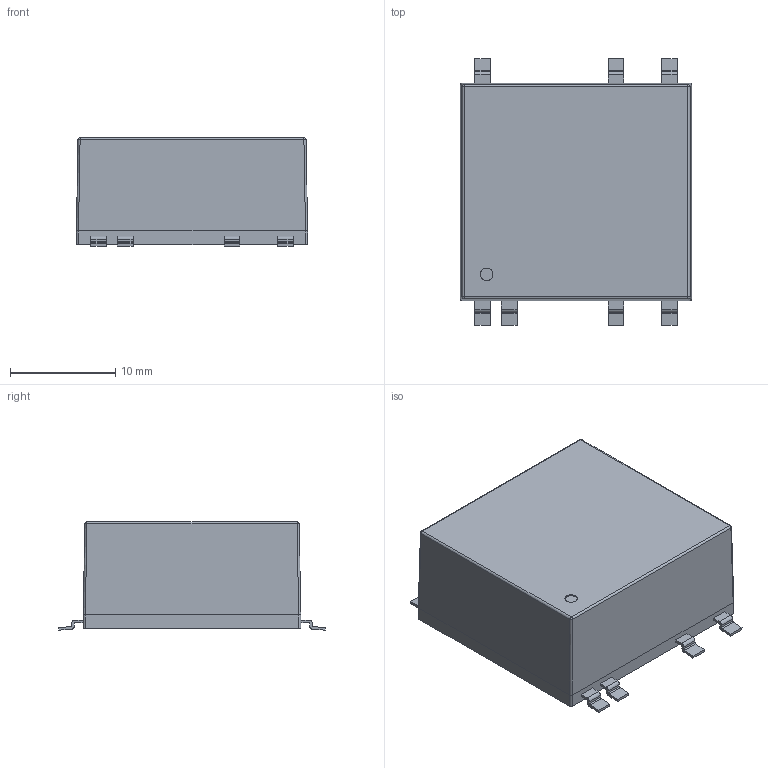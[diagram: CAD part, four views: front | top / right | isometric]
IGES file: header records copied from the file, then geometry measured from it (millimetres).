
Start section: SolidWorks IGES file using analytic representation for surfaces
Global section: file name: C:\Users\ksmith.XPNA\Desktop\ISX\ISX06.IGS; native system: SolidWorks 2017; preprocessor: SolidWorks 2017; author: ksmith; date: 171018.082520; units: inch
Bounding box: 22 x 25.4 x 10.31 mm (x, y, z)
Surface area: 3455.9 mm2 (no closed solid volume)
Topology: 0 solids, 0 shells, 157 faces, 1221 edges, 1217 vertices
Faces by surface type: bspline 97, revolution 60
